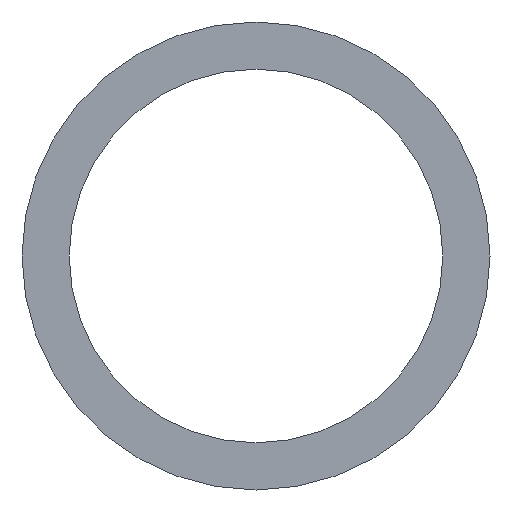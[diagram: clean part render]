
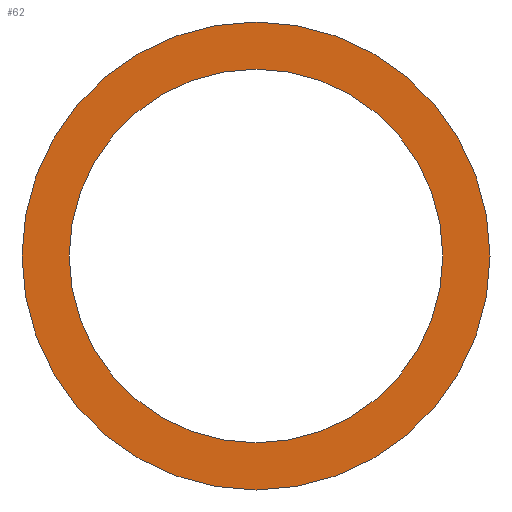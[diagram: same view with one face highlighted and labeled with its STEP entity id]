
A CAD part, front view. The second image highlights one B-rep face of the part: STEP entity #62.
In plain terms, the highlighted planar face has unit normal (0, -1, 0).
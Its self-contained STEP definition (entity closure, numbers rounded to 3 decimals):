
#20=PLANE('',#83);
#26=ORIENTED_EDGE('',*,*,#30,.T.);
#27=ORIENTED_EDGE('',*,*,#32,.F.);
#30=EDGE_CURVE('',#34,#34,#38,.T.);
#32=EDGE_CURVE('',#36,#36,#40,.T.);
#34=VERTEX_POINT('',#106);
#36=VERTEX_POINT('',#111);
#38=CIRCLE('',#78,618.);
#40=CIRCLE('',#81,774.);
#46=EDGE_LOOP('',(#26));
#47=EDGE_LOOP('',(#27));
#54=FACE_BOUND('',#46,.T.);
#55=FACE_BOUND('',#47,.T.);
#62=ADVANCED_FACE('',(#54,#55),#20,.F.);
#78=AXIS2_PLACEMENT_3D('',#105,#89,#90);
#81=AXIS2_PLACEMENT_3D('',#110,#95,#96);
#83=AXIS2_PLACEMENT_3D('',#114,#99,#100);
#89=DIRECTION('',(0.,1.,0.));
#90=DIRECTION('',(1.,0.,0.));
#95=DIRECTION('',(0.,1.,0.));
#96=DIRECTION('',(1.,0.,0.));
#99=DIRECTION('',(0.,1.,0.));
#100=DIRECTION('',(0.,0.,1.));
#105=CARTESIAN_POINT('',(0.,-1.5,0.));
#106=CARTESIAN_POINT('',(618.,-1.5,0.));
#110=CARTESIAN_POINT('',(0.,-1.5,0.));
#111=CARTESIAN_POINT('',(774.,-1.5,0.));
#114=CARTESIAN_POINT('',(0.,-1.5,0.));
